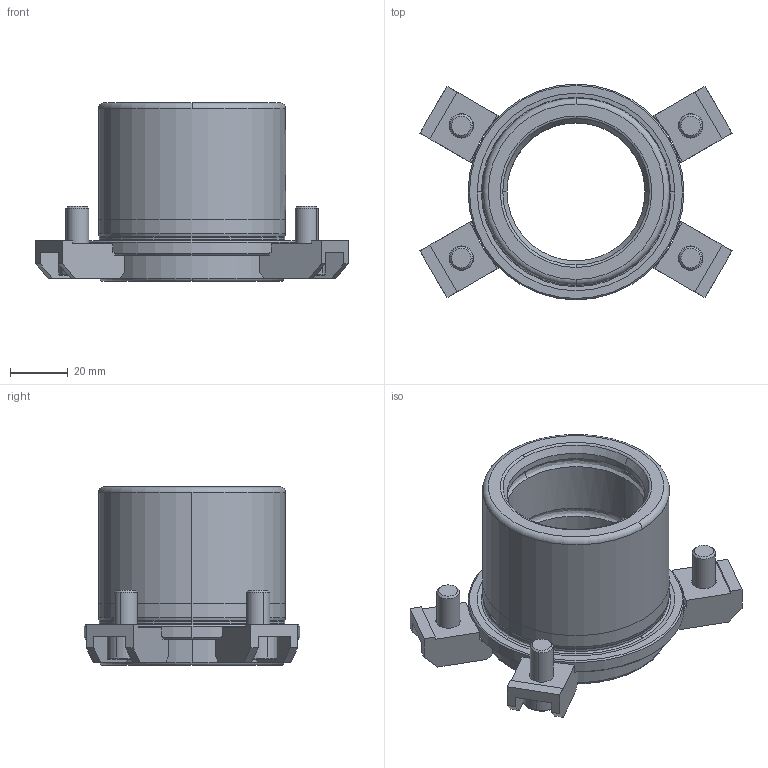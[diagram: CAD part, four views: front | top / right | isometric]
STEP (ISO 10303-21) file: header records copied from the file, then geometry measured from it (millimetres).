
FILE_DESCRIPTION((''),'2;1');
FILE_NAME('B12_048_014.stp','2008-11-04T13:51:22',(''),(''),'Mechanical Desktop 2009','Mechanical Desktop 2009',', , ');
FILE_SCHEMA(('CONFIG_CONTROL_DESIGN'));
Length unit declared in the file: millimetre
Products named in the file (2): Product; blmdl1
Assembly tree (1 placements, depth 2):
  Product
    blmdl1
Bounding box: 108.47 x 75 x 62 mm (x, y, z)
Volume: 111479.6 mm3; surface area: 39069.8 mm2
Topology: 9 solids, 9 shells, 244 faces, 636 edges, 419 vertices
Faces by surface type: plane 137, cylinder 56, cone 18, bspline 17, torus 16
Entity records: 8634 total; most frequent: CARTESIAN_POINT 2368, DIRECTION 1321, ORIENTED_EDGE 1272, EDGE_CURVE 636, AXIS2_PLACEMENT_3D 465, VERTEX_POINT 419, VECTOR 391, LINE 391
